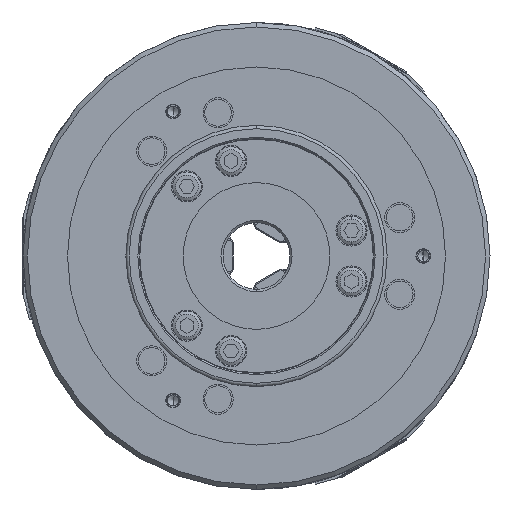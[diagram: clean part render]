
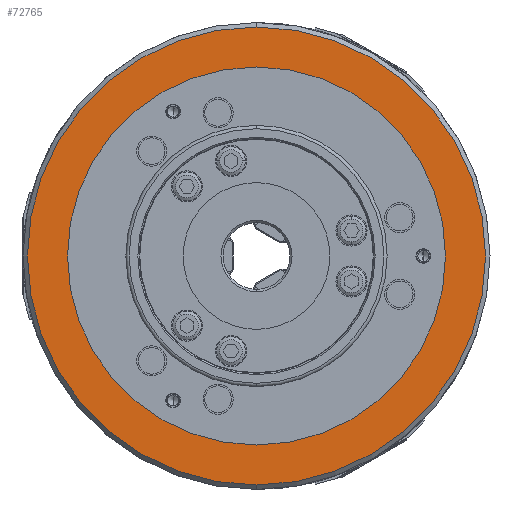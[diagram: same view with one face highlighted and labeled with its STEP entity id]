
A CAD part, left-side view. The second image highlights one B-rep face of the part: STEP entity #72765.
In plain terms, the highlighted planar face has unit normal (-1, 0, 0).
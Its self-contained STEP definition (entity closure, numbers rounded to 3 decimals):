
#2626 = DIRECTION ( 'NONE',  ( 1., 0., 0. ) ) ;
#3884 = ORIENTED_EDGE ( 'NONE', *, *, #84600, .F. ) ;
#5011 = ORIENTED_EDGE ( 'NONE', *, *, #6199, .T. ) ;
#5360 = CARTESIAN_POINT ( 'NONE',  ( -91., 0., 0. ) ) ;
#6199 = EDGE_CURVE ( 'NONE', #50351, #55915, #29360, .T. ) ;
#9777 = PLANE ( 'NONE',  #59980 ) ;
#10139 = FACE_BOUND ( 'NONE', #38782, .T. ) ;
#12051 = DIRECTION ( 'NONE',  ( 0., 0., -1. ) ) ;
#12756 = CARTESIAN_POINT ( 'NONE',  ( -91., 0., -103. ) ) ;
#13465 = CARTESIAN_POINT ( 'NONE',  ( -91., 0., -85. ) ) ;
#15468 = VERTEX_POINT ( 'NONE', #12756 ) ;
#18634 = DIRECTION ( 'NONE',  ( 1., 0., 0. ) ) ;
#23501 = DIRECTION ( 'NONE',  ( 1., 0., 0. ) ) ;
#26212 = CARTESIAN_POINT ( 'NONE',  ( -91., 0., 0. ) ) ;
#27571 = AXIS2_PLACEMENT_3D ( 'NONE', #58571, #18634, #65240 ) ;
#29360 = CIRCLE ( 'NONE', #27571, 85. ) ;
#32761 = EDGE_CURVE ( 'NONE', #15468, #51509, #59388, .T. ) ;
#32942 = DIRECTION ( 'NONE',  ( 0., 0., -1. ) ) ;
#34120 = ORIENTED_EDGE ( 'NONE', *, *, #37182, .T. ) ;
#37182 = EDGE_CURVE ( 'NONE', #55915, #50351, #49674, .T. ) ;
#38782 = EDGE_LOOP ( 'NONE', ( #34120, #5011 ) ) ;
#42532 = CARTESIAN_POINT ( 'NONE',  ( -91., 0., 0. ) ) ;
#45594 = FACE_OUTER_BOUND ( 'NONE', #46131, .T. ) ;
#46131 = EDGE_LOOP ( 'NONE', ( #80660, #3884 ) ) ;
#49264 = DIRECTION ( 'NONE',  ( 0., 0., -1. ) ) ;
#49674 = CIRCLE ( 'NONE', #81314, 85. ) ;
#50351 = VERTEX_POINT ( 'NONE', #67795 ) ;
#51509 = VERTEX_POINT ( 'NONE', #67574 ) ;
#52005 = DIRECTION ( 'NONE',  ( 1., 0., 0. ) ) ;
#55915 = VERTEX_POINT ( 'NONE', #13465 ) ;
#56718 = CARTESIAN_POINT ( 'NONE',  ( -91., -85., 0. ) ) ;
#58571 = CARTESIAN_POINT ( 'NONE',  ( -91., 0., 0. ) ) ;
#59388 = CIRCLE ( 'NONE', #68141, 103. ) ;
#59980 = AXIS2_PLACEMENT_3D ( 'NONE', #56718, #23501, #70091 ) ;
#62959 = CIRCLE ( 'NONE', #83425, 103. ) ;
#65240 = DIRECTION ( 'NONE',  ( 0., 0., -1. ) ) ;
#67574 = CARTESIAN_POINT ( 'NONE',  ( -91., 0., 103. ) ) ;
#67795 = CARTESIAN_POINT ( 'NONE',  ( -91., 0., 85. ) ) ;
#68141 = AXIS2_PLACEMENT_3D ( 'NONE', #5360, #52005, #12051 ) ;
#70091 = DIRECTION ( 'NONE',  ( 0., 0., -1. ) ) ;
#72765 = ADVANCED_FACE ( 'NONE', ( #45594, #10139 ), #9777, .F. ) ;
#72830 = DIRECTION ( 'NONE',  ( 1., 0., 0. ) ) ;
#80660 = ORIENTED_EDGE ( 'NONE', *, *, #32761, .F. ) ;
#81314 = AXIS2_PLACEMENT_3D ( 'NONE', #26212, #72830, #32942 ) ;
#83425 = AXIS2_PLACEMENT_3D ( 'NONE', #42532, #2626, #49264 ) ;
#84600 = EDGE_CURVE ( 'NONE', #51509, #15468, #62959, .T. ) ;
